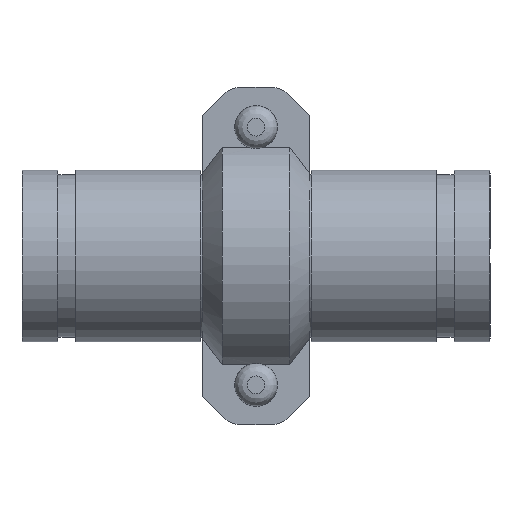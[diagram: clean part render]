
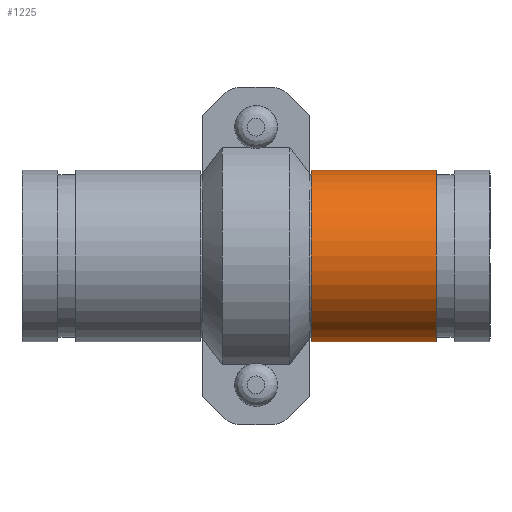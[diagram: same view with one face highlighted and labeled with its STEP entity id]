
A CAD part, front view. The second image highlights one B-rep face of the part: STEP entity #1225.
In plain terms, the highlighted cylindrical face has radius 38.1 mm (diameter 76.2 mm), a full revolution.
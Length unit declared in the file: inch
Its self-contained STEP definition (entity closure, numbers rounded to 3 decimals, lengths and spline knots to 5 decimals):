
#50=LINE('',#1938,#139);
#139=VECTOR('',#1577,1.5);
#228=CYLINDRICAL_SURFACE('',#1402,1.5);
#271=FACE_OUTER_BOUND('',#344,.T.);
#344=EDGE_LOOP('',(#805,#806,#807,#808,#809,#810));
#434=CIRCLE('',#1400,1.5);
#435=CIRCLE('',#1401,1.5);
#436=CIRCLE('',#1403,1.5);
#437=CIRCLE('',#1404,1.5);
#502=VERTEX_POINT('',#1929);
#503=VERTEX_POINT('',#1930);
#504=VERTEX_POINT('',#1934);
#505=VERTEX_POINT('',#1935);
#621=EDGE_CURVE('',#502,#503,#434,.T.);
#622=EDGE_CURVE('',#503,#502,#435,.T.);
#623=EDGE_CURVE('',#504,#505,#436,.T.);
#624=EDGE_CURVE('',#505,#504,#437,.T.);
#625=EDGE_CURVE('',#505,#503,#50,.T.);
#805=ORIENTED_EDGE('',*,*,#623,.F.);
#806=ORIENTED_EDGE('',*,*,#624,.F.);
#807=ORIENTED_EDGE('',*,*,#625,.T.);
#808=ORIENTED_EDGE('',*,*,#622,.T.);
#809=ORIENTED_EDGE('',*,*,#621,.T.);
#810=ORIENTED_EDGE('',*,*,#625,.F.);
#1225=ADVANCED_FACE('',(#271),#228,.T.);
#1400=AXIS2_PLACEMENT_3D('',#1931,#1567,#1568);
#1401=AXIS2_PLACEMENT_3D('',#1932,#1569,#1570);
#1402=AXIS2_PLACEMENT_3D('',#1933,#1571,#1572);
#1403=AXIS2_PLACEMENT_3D('',#1936,#1573,#1574);
#1404=AXIS2_PLACEMENT_3D('',#1937,#1575,#1576);
#1567=DIRECTION('center_axis',(-1.,0.,0.));
#1568=DIRECTION('ref_axis',(0.,0.,1.));
#1569=DIRECTION('center_axis',(-1.,0.,0.));
#1570=DIRECTION('ref_axis',(0.,0.,1.));
#1571=DIRECTION('center_axis',(-1.,0.,0.));
#1572=DIRECTION('ref_axis',(0.,1.,0.));
#1573=DIRECTION('center_axis',(-1.,0.,0.));
#1574=DIRECTION('ref_axis',(0.,0.,1.));
#1575=DIRECTION('center_axis',(-1.,0.,0.));
#1576=DIRECTION('ref_axis',(0.,0.,1.));
#1577=DIRECTION('',(1.,0.,0.));
#1929=CARTESIAN_POINT('',(1.0895,1.5,0.));
#1930=CARTESIAN_POINT('',(1.0895,-1.5,0.));
#1931=CARTESIAN_POINT('Origin',(1.0895,0.,0.));
#1932=CARTESIAN_POINT('Origin',(1.0895,0.,0.));
#1933=CARTESIAN_POINT('Origin',(0.,0.,
0.));
#1934=CARTESIAN_POINT('',(-1.0895,1.5,0.));
#1935=CARTESIAN_POINT('',(-1.0895,-1.5,0.));
#1936=CARTESIAN_POINT('Origin',(-1.0895,0.,0.));
#1937=CARTESIAN_POINT('Origin',(-1.0895,0.,0.));
#1938=CARTESIAN_POINT('',(0.,-1.5,0.));
